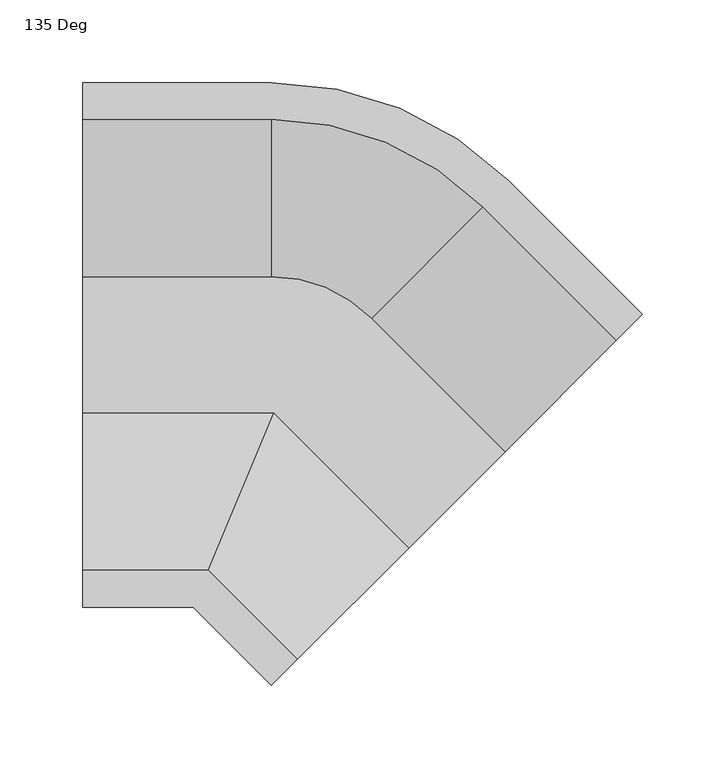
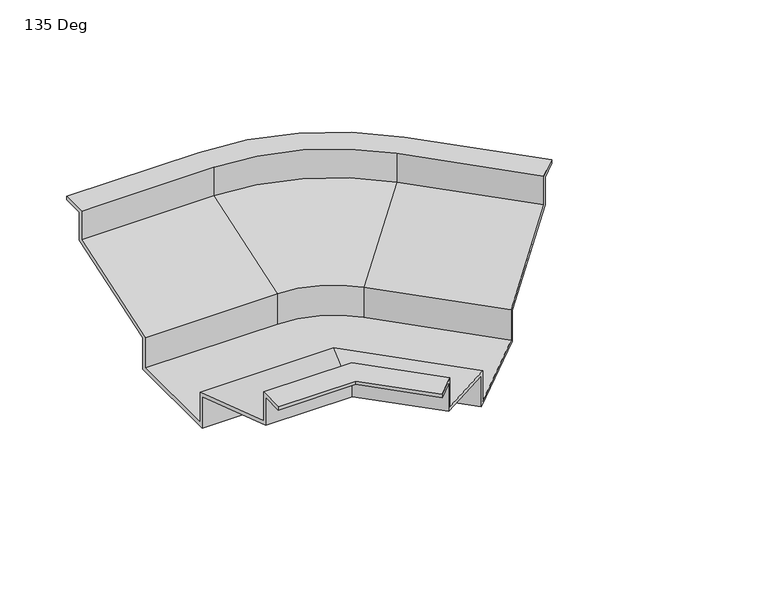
"""IFC4 building model written with IfcOpenShell, lengths in millimetres: furniture geometry, HermanMiller_Ethospace_E2828_CounterTopSupportFiller : 135 Deg."""

from ifc_helpers import new_model, si_unit, frame, origin, place, context, project, spatial, polyline, circle_curve, source, transform, mapped, element, save
from ifc_brep_helpers import plane_surface, cylinder_surface, revolved_surface, advanced_brep


def furniture_135_deg_1ba110b8(model_context):
    return source(origin(), model_context, "Body", "AdvancedBrep", [
        advanced_brep(
        [(-169.465625, 53.975, 996.0634105), (-169.465625, 149.225, 1027.8134105), (-169.465625, 149.225, 1054.1), (-169.465625, 171.45, 1054.1), (-169.465625, 171.45, 1050.925), (-169.465625, 152.4, 1050.925), (-169.465625, 152.4, 1025.525), (-169.465625, 57.15, 993.775), (-169.465625, 57.15, 965.2), (-169.465625, -31.75, 965.2), (-169.465625, -31.75, 993.775), (-169.465625, -127.0, 1025.525), (-169.465625, -127.0, 1050.925), (-169.465625, -146.05, 1050.925), (-169.465625, -146.05, 1054.1), (-169.465625, -123.825, 1054.1), (-169.465625, -123.825, 1027.8134105), (-169.465625, -28.575, 996.0634105), (-169.465625, -28.575, 968.375), (-169.465625, 53.975, 968.375), (-55.165625, 53.975, 996.0634105), (-55.165625, 149.225, 1027.8134105), (-55.165625, 149.225, 1054.1), (72.8030247, 96.2186497, 1054.1), (153.6253298, 15.3963446, 1054.1), (169.340778, 31.1117928, 1054.1), (88.5184729, 111.9340979, 1054.1), (-55.165625, 171.45, 1054.1), (-55.165625, 171.45, 1050.925), (88.5184729, 111.9340979, 1050.925), (169.340778, 31.1117928, 1050.925), (155.8703938, 17.6414087, 1050.925), (75.0480888, 98.4637138, 1050.925), (-55.165625, 152.4, 1050.925), (-55.165625, 152.4, 1025.525), (-55.165625, 57.15, 993.775), (-55.165625, 57.15, 968.375), (-55.165625, 57.15, 965.2), (7.6961678, 31.1117928, 965.2), (88.5184729, -49.7105122, 965.2), (25.6566801, -112.5723051, 965.2), (-55.165625, -31.75, 965.2), (-55.165625, 53.975, 968.375), (5.4511038, 28.8667288, 996.0634105), (72.8030247, 96.2186497, 1027.8134105), (75.0480888, 98.4637138, 1025.525), (7.6961678, 31.1117928, 993.775), (7.6961678, 31.1117928, 968.375), (5.4511038, 28.8667288, 968.375), (153.6253298, 15.3963446, 1027.8134105), (86.2734089, -51.9555763, 996.0634105), (86.2734089, -51.9555763, 968.375), (27.9017441, -110.3272411, 968.375), (27.9017441, -110.3272411, 996.0634105), (-39.4501768, -177.679162, 1027.8134105), (-39.4501768, -177.679162, 1054.1), (-55.165625, -193.3946102, 1054.1), (-55.165625, -193.3946102, 1050.925), (-41.6952408, -179.924226, 1050.925), (-41.6952408, -179.924226, 1025.525), (25.6566801, -112.5723051, 993.775), (88.5184729, -49.7105122, 993.775), (155.8703938, 17.6414087, 1025.525), (-53.8504969, -28.575, 968.375), (-55.165625, -31.75, 993.775), (-94.6194668, -127.0, 1025.525), (-53.8504969, -28.575, 996.0634105), (-93.3043388, -123.825, 1027.8134105), (-93.3043388, -123.825, 1054.1), (-102.5102352, -146.05, 1054.1), (-102.5102352, -146.05, 1050.925), (-94.6194668, -127.0, 1050.925)],
        [
            (0, 1),
            (1, 2),
            (2, 3),
            (3, 4),
            (4, 5),
            (5, 6),
            (6, 7),
            (7, 8),
            (8, 9),
            (9, 10),
            (10, 11),
            (11, 12),
            (12, 13),
            (13, 14),
            (14, 15),
            (15, 16),
            (16, 17),
            (17, 18),
            (18, 19),
            (19, 0),
            (0, 20),
            (20, 21),
            (21, 1),
            (21, 22),
            (22, 2),
            (22, 23, circle_curve(frame((-55.165625, -31.75, 1054.1), z_axis=(0.0, 0.0, -1.0), x_axis=(0.0, 1.0, 0.0)), 180.975)),
            (23, 24),
            (24, 25),
            (25, 26),
            (26, 27, circle_curve(frame((-55.165625, -31.75, 1054.1), z_axis=(0.0, 0.0, 1.0), x_axis=(0.0, 1.0, 0.0)), 203.2)),
            (27, 3),
            (27, 28),
            (28, 4),
            (28, 29, circle_curve(frame((-55.165625, -31.75, 1050.925), z_axis=(0.0, 0.0, -1.0), x_axis=(0.0, 1.0, 0.0)), 203.2)),
            (29, 30),
            (30, 31),
            (31, 32),
            (32, 33, circle_curve(frame((-55.165625, -31.75, 1050.925), z_axis=(0.0, 0.0, 1.0), x_axis=(0.0, 1.0, 0.0)), 184.15)),
            (33, 5),
            (33, 34),
            (34, 6),
            (34, 35),
            (35, 7),
            (35, 36),
            (36, 37),
            (37, 8),
            (37, 38, circle_curve(frame((-55.165625, -31.75, 965.2), z_axis=(0.0, 0.0, -1.0), x_axis=(0.0, 1.0, 0.0)), 88.9)),
            (38, 39),
            (39, 40),
            (40, 41),
            (41, 9),
            (19, 42),
            (42, 20),
            (20, 43, circle_curve(frame((-55.165625, -31.75, 996.0634105), z_axis=(0.0, 0.0, -1.0), x_axis=(0.0, 1.0, 0.0)), 85.725)),
            (43, 44),
            (44, 21, circle_curve(frame((-55.165625, -31.75, 1027.8134105), z_axis=(0.0, 0.0, 1.0), x_axis=(0.0, 1.0, 0.0)), 180.975)),
            (44, 23),
            (26, 29),
            (32, 45),
            (45, 34, circle_curve(frame((-55.165625, -31.75, 1025.525), z_axis=(0.0, 0.0, 1.0), x_axis=(0.0, 1.0, 0.0)), 184.15)),
            (45, 46),
            (46, 35, circle_curve(frame((-55.165625, -31.75, 993.775), z_axis=(0.0, 0.0, 1.0), x_axis=(0.0, 1.0, 0.0)), 88.9)),
            (46, 47),
            (47, 38),
            (42, 48, circle_curve(frame((-55.165625, -31.75, 968.375), z_axis=(0.0, 0.0, -1.0), x_axis=(0.0, 1.0, 0.0)), 85.725)),
            (48, 43),
            (24, 49),
            (49, 50),
            (50, 51),
            (51, 52),
            (52, 53),
            (53, 54),
            (54, 55),
            (55, 56),
            (56, 57),
            (57, 58),
            (58, 59),
            (59, 60),
            (60, 40),
            (39, 61),
            (61, 62),
            (62, 31),
            (30, 25),
            (43, 50),
            (49, 44),
            (62, 45),
            (61, 46),
            (48, 51),
            (18, 63),
            (63, 52),
            (41, 64),
            (64, 10),
            (60, 64),
            (59, 65),
            (65, 64),
            (66, 53),
            (63, 66),
            (66, 67),
            (67, 54),
            (67, 68),
            (68, 55),
            (68, 15),
            (14, 69),
            (69, 56),
            (69, 70),
            (70, 57),
            (70, 13),
            (12, 71),
            (71, 58),
            (71, 65),
            (65, 11),
            (17, 66),
            (16, 67),
        ],
        [
            plane_surface(frame((-169.465625, 171.45, 1562.1), z_axis=(-1.0, 0.0, 0.0), x_axis=(0.0, 0.0, 1.0))),
            plane_surface(frame((-169.465625, 53.975, 996.0634105), z_axis=(0.0, -0.3162277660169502, 0.9486832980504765), x_axis=(1.0, 0.0, 0.0))),
            plane_surface(frame((-169.465625, 149.225, 1027.8134105), z_axis=(0.0, -1.0, 0.0), x_axis=(1.0, 0.0, 0.0))),
            plane_surface(frame((-169.465625, 149.225, 1054.1), z_axis=(0.0, 0.0, 1.0), x_axis=(1.0, 0.0, 0.0))),
            plane_surface(frame((-169.465625, 171.45, 1054.1), z_axis=(0.0, 1.0, 0.0), x_axis=(1.0, 0.0, 0.0))),
            plane_surface(frame((-169.465625, 171.45, 1050.925), z_axis=(0.0, 0.0, -1.0), x_axis=(1.0, 0.0, 0.0))),
            plane_surface(frame((-169.465625, 152.4, 1050.925), z_axis=(0.0, 1.0, 0.0), x_axis=(1.0, 0.0, 0.0))),
            plane_surface(frame((-169.465625, 152.4, 1025.525), z_axis=(0.0, 0.316227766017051, -0.9486832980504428), x_axis=(1.0, 0.0, 0.0))),
            plane_surface(frame((-169.465625, 57.15, 993.775), z_axis=(0.0, 1.0, 0.0), x_axis=(1.0, 0.0, 0.0))),
            plane_surface(frame((-169.465625, 57.15, 965.2), z_axis=(0.0, 0.0, -1.0), x_axis=(1.0, 0.0, 0.0))),
            plane_surface(frame((-169.465625, 53.975, 965.2), z_axis=(0.0, -1.0, 0.0), x_axis=(1.0, 0.0, 0.0))),
            revolved_surface(polyline([(-55.165625, 53.975, 996.0634105), (-55.165625, 149.225, 1027.8134105)]), (-55.165625, -31.75, 1562.1), (0.0, 0.0, -1.0)),
            revolved_surface(polyline([(-55.165625, 149.225, 1027.8134105), (-55.165625, 149.225, 1054.1)]), (-55.165625, -31.75, 1562.1), (0.0, 0.0, -1.0)),
            cylinder_surface(frame((-55.165625, -31.75, 1562.1), z_axis=(0.0, 0.0, -1.0), x_axis=(0.0, 1.0, 0.0)), 203.2),
            cylinder_surface(frame((-55.165625, -31.75, 1562.1), z_axis=(0.0, 0.0, -1.0), x_axis=(0.0, 1.0, 0.0)), 184.15),
            revolved_surface(polyline([(-55.165625, 152.4, 1025.525), (-55.165625, 57.15, 993.775)]), (-55.165625, -31.75, 1562.1), (0.0, 0.0, -1.0)),
            cylinder_surface(frame((-55.165625, -31.75, 1562.1), z_axis=(0.0, 0.0, -1.0), x_axis=(0.0, 1.0, 0.0)), 88.9),
            revolved_surface(polyline([(-55.165625, 53.974999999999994, 968.375), (-55.165625, 53.974999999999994, 996.0634105)]), (-55.165625, -31.75, 1562.1), (0.0, 0.0, -1.0)),
            plane_surface(frame((169.340778, 31.1117928, 1562.1), z_axis=(0.7071067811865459, -0.7071067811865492, 0.0), x_axis=(0.0, 0.0, 1.0))),
            plane_surface(frame((5.4511038, 28.8667288, 996.0634105), z_axis=(-0.2236067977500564, -0.22360679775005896, 0.9486832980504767), x_axis=(0.7071067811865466, -0.7071067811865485, 0.0))),
            plane_surface(frame((72.8030247, 96.2186497, 1027.8134105), z_axis=(-0.7071067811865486, -0.7071067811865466, 0.0), x_axis=(0.7071067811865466, -0.7071067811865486, 0.0))),
            plane_surface(frame((88.5184729, 111.9340979, 1054.1), z_axis=(0.7071067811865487, 0.7071067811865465, 0.0), x_axis=(0.7071067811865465, -0.7071067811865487, 0.0))),
            plane_surface(frame((75.0480888, 98.4637138, 1050.925), z_axis=(0.7071067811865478, 0.7071067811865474, 0.0), x_axis=(0.7071067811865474, -0.7071067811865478, 0.0))),
            plane_surface(frame((75.0480888, 98.4637138, 1025.525), z_axis=(0.22360679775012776, 0.2236067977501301, -0.9486832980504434), x_axis=(0.7071067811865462, -0.7071067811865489, 0.0))),
            plane_surface(frame((7.6961678, 31.1117928, 993.775), z_axis=(0.707106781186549, 0.707106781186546, 0.0), x_axis=(0.707106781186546, -0.707106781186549, 0.0))),
            plane_surface(frame((5.4511038, 28.8667288, 965.2), z_axis=(-0.7071067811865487, -0.7071067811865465, 0.0), x_axis=(0.7071067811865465, -0.7071067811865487, 0.0))),
            plane_surface(frame((-55.165625, 57.15, 968.375), z_axis=(0.0, 0.0, 1.0), x_axis=(-1.0, 0.0, 0.0))),
            plane_surface(frame((-169.465625, -31.75, 968.375), z_axis=(0.0, -1.0, 0.0), x_axis=(0.0, 0.0, -1.0))),
            plane_surface(frame((-55.165625, -31.75, 968.375), z_axis=(-0.7071067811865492, -0.7071067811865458, 0.0), x_axis=(0.0, 0.0, -1.0))),
            plane_surface(frame((-41.6952408, -179.924226, 1025.525), z_axis=(-0.22360679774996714, -0.22360679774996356, -0.9486832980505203), x_axis=(-0.7071067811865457, 0.7071067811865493, 0.0))),
            plane_surface(frame((27.9017441, -110.3272411, 965.2), z_axis=(0.7071067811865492, 0.7071067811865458, 0.0), x_axis=(-0.7071067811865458, 0.7071067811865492, 0.0))),
            plane_surface(frame((27.9017441, -110.3272411, 996.0634105), z_axis=(0.2236067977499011, 0.2236067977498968, 0.9486832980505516), x_axis=(-0.7071067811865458, 0.7071067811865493, 0.0))),
            plane_surface(frame((-39.4501768, -177.679162, 1027.8134105), z_axis=(0.7071067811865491, 0.707106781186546, 0.0), x_axis=(-0.707106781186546, 0.7071067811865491, 0.0))),
            plane_surface(frame((-39.4501768, -177.679162, 1054.1), z_axis=(0.0, 0.0, 1.0000000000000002), x_axis=(-0.7071067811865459, 0.7071067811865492, 0.0))),
            plane_surface(frame((-55.165625, -193.3946102, 1054.1), z_axis=(-0.7071067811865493, -0.7071067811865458, 0.0), x_axis=(-0.7071067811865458, 0.7071067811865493, 0.0))),
            plane_surface(frame((-55.165625, -193.3946102, 1050.925), z_axis=(0.0, 0.0, -1.0), x_axis=(-0.7071067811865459, 0.7071067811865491, 0.0))),
            plane_surface(frame((-41.6952408, -179.924226, 1050.925), z_axis=(-0.7071067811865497, -0.7071067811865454, 0.0), x_axis=(-0.7071067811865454, 0.7071067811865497, 0.0))),
            plane_surface(frame((-94.6194668, -127.0, 1025.525), z_axis=(0.0, -0.31622776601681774, -0.9486832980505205), x_axis=(-1.0, 0.0, 0.0))),
            plane_surface(frame((-53.8504969, -28.575, 965.2), z_axis=(0.0, 1.0, 0.0), x_axis=(-1.0, 0.0, 0.0))),
            plane_surface(frame((-53.8504969, -28.575, 996.0634105), z_axis=(0.0, 0.31622776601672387, 0.9486832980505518), x_axis=(-1.0, 0.0, 0.0))),
            plane_surface(frame((-93.3043388, -123.825, 1027.8134105), z_axis=(0.0, 1.0, 0.0), x_axis=(-1.0, 0.0, 0.0))),
            plane_surface(frame((-102.5102352, -146.05, 1054.1), z_axis=(0.0, -1.0, 0.0), x_axis=(-1.0, 0.0, 0.0))),
            plane_surface(frame((-94.6194668, -127.0, 1050.925), z_axis=(0.0, -1.0, 0.0), x_axis=(-1.0, 0.0, 0.0))),
        ],
        [
            (0, [[1, 2, 3, 4, 5, 6, 7, 8, 9, 10, 11, 12, 13, 14, 15, 16, 17, 18, 19, 20]]),
            (1, [[-1, 21, 22, 23]]),
            (2, [[-2, -23, 24, 25]]),
            (3, [[-3, -25, 26, 27, 28, 29, 30, 31]]),
            (4, [[-4, -31, 32, 33]]),
            (5, [[-5, -33, 34, 35, 36, 37, 38, 39]]),
            (6, [[-6, -39, 40, 41]]),
            (7, [[-7, -41, 42, 43]]),
            (8, [[-43, 44, 45, 46, -8]]),
            (9, [[-9, -46, 47, 48, 49, 50, 51]]),
            (10, [[-21, -20, 52, 53]]),
            (11, [[-22, 54, 55, 56]]),
            (12, [[-24, -56, 57, -26]]),
            (13, [[-30, 58, -34, -32]]),
            (14, [[-38, 59, 60, -40]]),
            (15, [[-42, -60, 61, 62]]),
            (16, [[-47, -45, -44, -62, 63, 64]]),
            (17, [[-54, -53, 65, 66]]),
            (18, [[-28, 67, 68, 69, 70, 71, 72, 73, 74, 75, 76, 77, 78, 79, -49, 80, 81, 82, -36, 83]]),
            (19, [[-55, 84, -68, 85]]),
            (20, [[-27, -57, -85, -67]]),
            (21, [[-29, -83, -35, -58]]),
            (22, [[-37, -82, 86, -59]]),
            (23, [[-61, -86, -81, 87]]),
            (24, [[-48, -64, -63, -87, -80]]),
            (25, [[-84, -66, 88, -69]]),
            (26, [[-52, -19, 89, 90, -70, -88, -65]]),
            (27, [[-10, -51, 91, 92]]),
            (28, [[-91, -50, -79, 93]]),
            (29, [[-78, 94, 95, -93]]),
            (30, [[96, -71, -90, 97]]),
            (31, [[-72, -96, 98, 99]]),
            (32, [[-73, -99, 100, 101]]),
            (33, [[-74, -101, 102, -15, 103, 104]]),
            (34, [[-75, -104, 105, 106]]),
            (35, [[-76, -106, 107, -13, 108, 109]]),
            (36, [[-77, -109, 110, -94]]),
            (37, [[-95, 111, -11, -92]]),
            (38, [[112, -97, -89, -18]]),
            (39, [[-98, -112, -17, 113]]),
            (40, [[-100, -113, -16, -102]]),
            (41, [[-103, -14, -107, -105]]),
            (42, [[-108, -12, -111, -110]]),
        ],
    ),
    ])


if __name__ == "__main__":
    model = new_model("IFC4")
    model_context = context("Model", 3, world=origin())
    ifc_project = project(units=[si_unit("LENGTHUNIT", "METRE", prefix="MILLI")], contexts=[model_context])
    site = spatial("IfcSite", under=ifc_project)
    building = spatial("IfcBuilding", under=site)
    placement = place(None, origin())
    furniture_135_deg_shape = furniture_135_deg_1ba110b8(model_context)
    element("IfcFurniture", 1, ObjectType="HermanMiller_Ethospace_E2828_CounterTopSupportFiller : 135 Deg", at=placement, inside=building, context=model_context, shape_type="MappedRepresentation", body=[
        mapped(furniture_135_deg_shape, transform((0.0, 0.0, 0.0), x_axis=(1.0, 0.0, 0.0), y_axis=(0.0, 1.0, 0.0), z_axis=(0.0, 0.0, 1.0))),
    ])
    save(model, "model.ifc")
